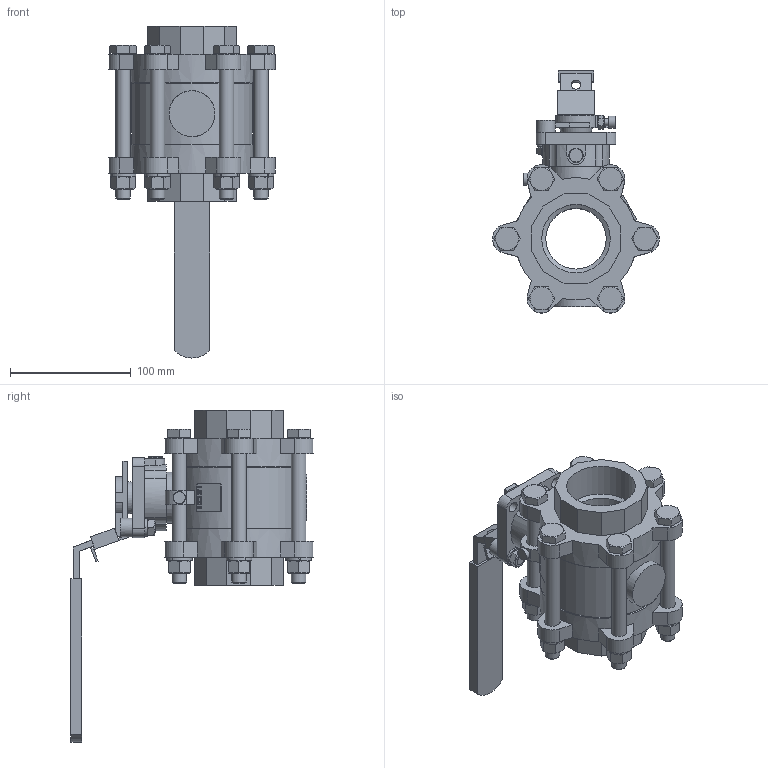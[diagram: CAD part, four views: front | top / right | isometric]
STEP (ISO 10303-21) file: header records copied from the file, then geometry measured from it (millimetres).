
FILE_DESCRIPTION(/* description */ ('Eriks item no: 13278894'),/* implementation_level */ '2;1');
FILE_NAME(/* name */ 'L:\DATA\ENG\Inventor\Econ 3D modellen\kogelkranen\7442\Rubens Versie\7442-DN50-FB.stp',/* time_stamp */ '2023-06-08T08:05:03+02:00',/* author */ ('roger.thijssen'),/* organization */ (''),/* preprocessor_version */ 'ST-DEVELOPER v18',/* originating_system */ 'Autodesk Inventor 2020',/* authorisation */ '');
FILE_SCHEMA (('CONFIG_CONTROL_DESIGN'));
Length unit declared in the file: millimetre
Products named in the file (1): Ball valve, 7442 - 2" - FB, (TF4103)
Bounding box: 137.91 x 200.33 x 274.5 mm (x, y, z)
Volume: 993719.1 mm3; surface area: 175817.9 mm2
Topology: 1 solids, 1 shells, 736 faces, 1988 edges, 1304 vertices
Faces by surface type: plane 461, cylinder 162, cone 80, bspline 30, torus 3
Full cylindrical faces by diameter (mm): 6 x1, 6.4 x1, 8 x3, 8.9 x1, 9 x5, 10 x2, 12 x13, 13 x14, 15.5 x1, 17.4 x6, 38 x1, 42 x1, 50 x1, 55 x1, 56.66 x2, 100 x1, 101 x2
Entity records: 23819 total; most frequent: CARTESIAN_POINT 5259, ORIENTED_EDGE 3974, DIRECTION 3705, EDGE_CURVE 1987, AXIS2_PLACEMENT_3D 1306, VERTEX_POINT 1304, LINE 1093, VECTOR 1093
